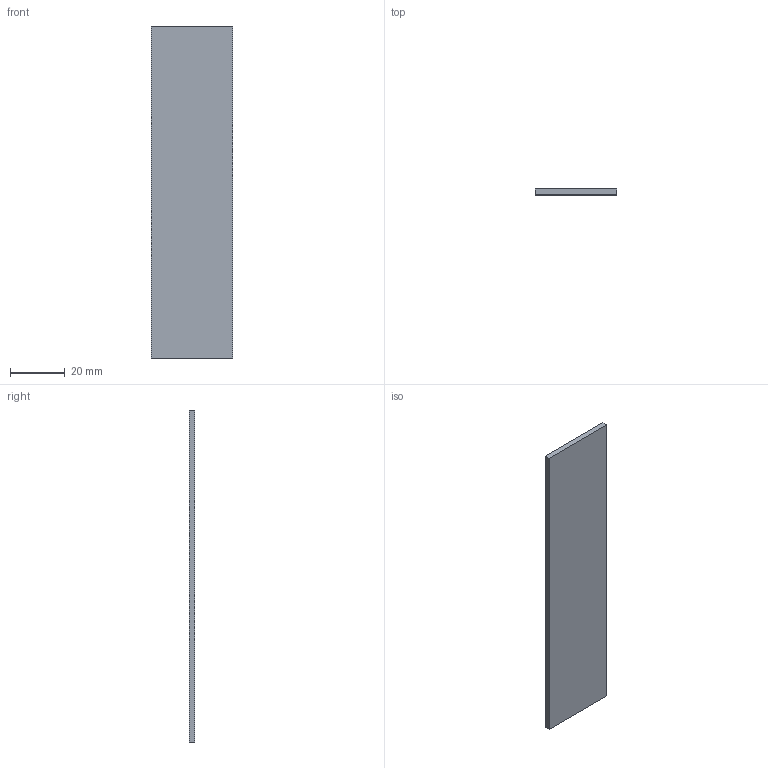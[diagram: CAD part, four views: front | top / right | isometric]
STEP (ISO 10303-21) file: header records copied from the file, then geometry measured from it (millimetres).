
FILE_DESCRIPTION (( 'STEP AP214' ), '1' );
FILE_NAME ('IDT2-00-120-1-X-24V-01 CLEAR PERSPEX.STEP', '2022-05-10T03:57:15', ( '' ), ( '' ), 'SwSTEP 2.0', 'SolidWorks 2021', '' );
FILE_SCHEMA (( 'AUTOMOTIVE_DESIGN' ));
Length unit declared in the file: millimetre
Products named in the file (1): IDT2-00-120-1-X-24V-01 CLEAR PERSPEX
Bounding box: 29.8 x 2 x 121 mm (x, y, z)
Volume: 7211.6 mm3; surface area: 7814.8 mm2
Topology: 1 solids, 1 shells, 6 faces, 12 edges, 8 vertices
Faces by surface type: plane 6
Entity records: 190 total; most frequent: CARTESIAN_POINT 27, DIRECTION 26, ORIENTED_EDGE 24, EDGE_CURVE 12, VECTOR 12, LINE 12, VERTEX_POINT 8, AXIS2_PLACEMENT_3D 7
